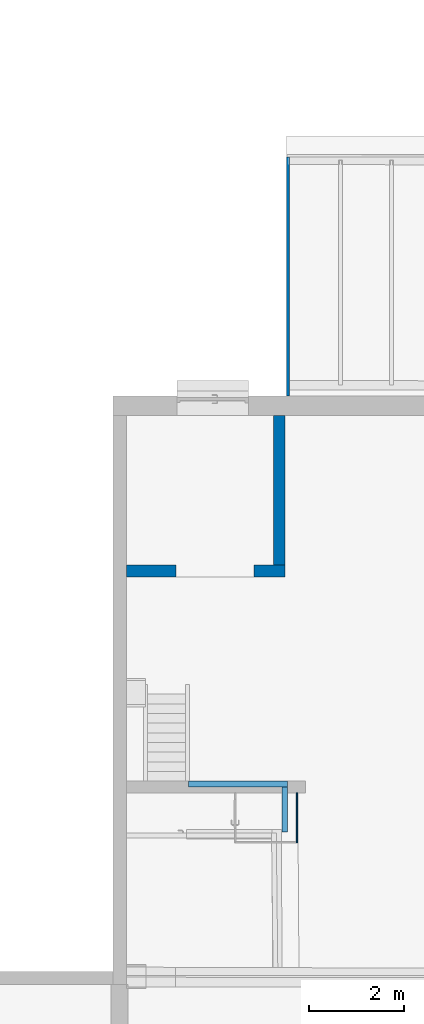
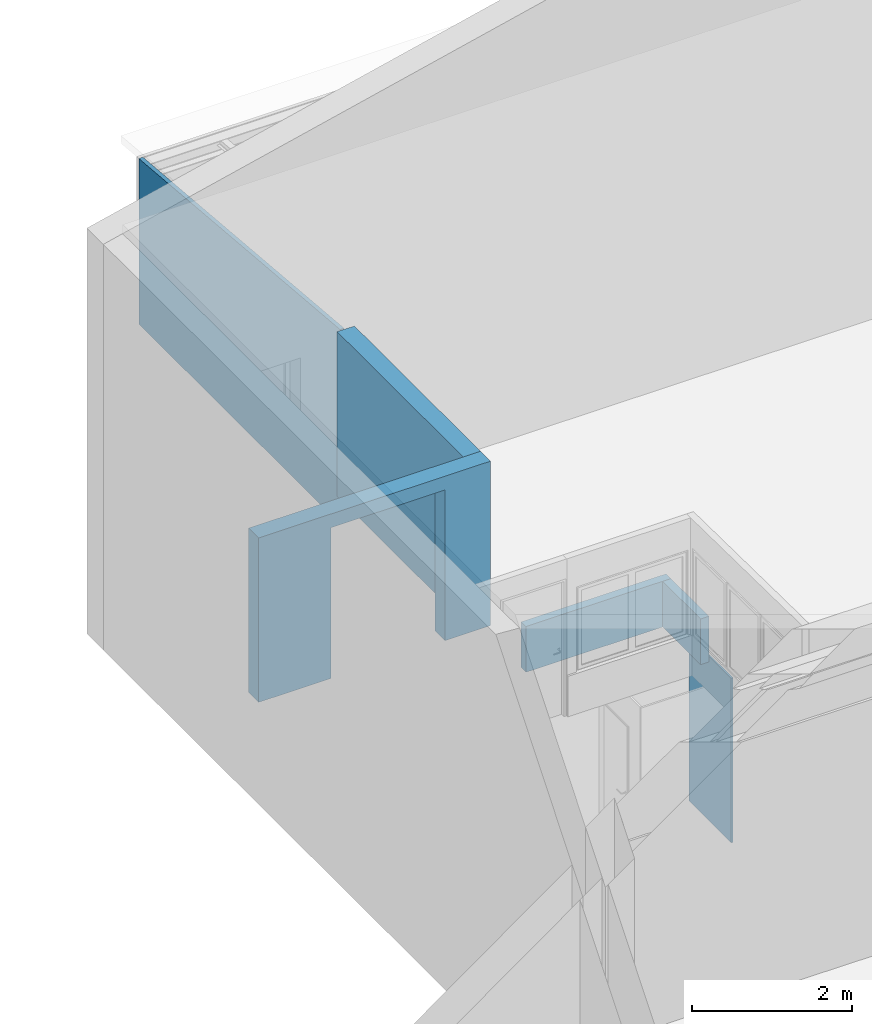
# One storey, part 171 of 301: 6 walls, 1 opening.
"""IFC2X3 building model written with IfcOpenShell, lengths in millimetres."""

from ifc_helpers import new_model, entity, si_unit, converted_unit, derived_unit, money_unit, direction, frame, origin_with_axes, place, context, subcontext, project, spatial, faceted_brep, material, type_object, element, save


model = new_model("IFC2X3")

# Units and contexts
model_context = context("Model", 3, precision=0.01, world=origin_with_axes(), true_north=direction((0.0, 1.0)))
body_context = subcontext(model_context, "Body", "Model", "MODEL_VIEW")
ifc_project = project(units=[si_unit("LENGTHUNIT", "METRE", prefix="MILLI"), si_unit("AREAUNIT", "SQUARE_METRE"), si_unit("VOLUMEUNIT", "CUBIC_METRE"), converted_unit("PLANEANGLEUNIT", "DEGREE", entity("IfcPlaneAngleMeasure", 0.0174532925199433), si_unit("PLANEANGLEUNIT", "RADIAN"), dimensions=[0, 0, 0, 0, 0, 0, 0]), money_unit("EUR"), converted_unit("TIMEUNIT", "Year", entity("IfcTimeMeasure", 31557600.0), si_unit("TIMEUNIT", "SECOND"), dimensions=[0, 0, 1, 0, 0, 0, 0]), si_unit("MASSUNIT", "GRAM", prefix="KILO"), si_unit("THERMODYNAMICTEMPERATUREUNIT", "DEGREE_CELSIUS"), si_unit("LUMINOUSINTENSITYUNIT", "LUMEN"), si_unit("ENERGYUNIT", "JOULE", prefix="MEGA"), derived_unit("THERMALCONDUCTANCEUNIT", [(si_unit("POWERUNIT", "WATT"), 1), (si_unit("LENGTHUNIT", "METRE"), -1), (si_unit("THERMODYNAMICTEMPERATUREUNIT", "KELVIN"), -1)]), derived_unit("SPECIFICHEATCAPACITYUNIT", [(si_unit("ENERGYUNIT", "JOULE"), 1), (si_unit("MASSUNIT", "GRAM", prefix="KILO"), -1), (si_unit("THERMODYNAMICTEMPERATUREUNIT", "KELVIN"), -1)]), derived_unit("MASSDENSITYUNIT", [(si_unit("MASSUNIT", "GRAM", prefix="KILO"), 1), (si_unit("VOLUMEUNIT", "CUBIC_METRE"), -1)])], contexts=[model_context])

# Site, building, storey
site_placement = place(None, frame((0.0, 0.0, 8650.0), z_axis=(0.0, 0.0, 1.0), x_axis=(1.0, 0.0, 0.0)))
site = spatial("IfcSite", under=ifc_project, at=site_placement, Name="43301:001:0844", CompositionType="ELEMENT")
building_placement = place(site_placement, origin_with_axes())
building = spatial("IfcBuilding", under=site, at=building_placement, Name="Kuressaare Ametikooli tuulikute mehaanikute õppekorpus", CompositionType="ELEMENT")
storey_placement = place(building_placement, origin_with_axes())
storey = spatial("IfcBuildingStorey", under=building, at=storey_placement, Name="1.korrus", CompositionType="ELEMENT", Elevation=0.0)

# Wall
ifc_material = material(Name="GENEERILINE - KONSTRUKTRIOON")
wall_type_1 = type_object("IfcWallType", Name="GENEERILINE - KONSTRUKTRIOON 250", PredefinedType="NOTDEFINED")
wall_1_placement = place(storey_placement, frame((91571.70661080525, 122742.6530807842, -330.0), z_axis=(0.0, 0.0, 1.0), x_axis=(0.0, -1.0, 0.0)))
element("IfcWall", 1, at=wall_1_placement, inside=storey, type_object=wall_type_1, material=ifc_material, Name="SS-XX", context=body_context, shape_type="Brep", body=[
    faceted_brep([(409.9307253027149, -250.0, 2515.0), (3568.375409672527, -250.0, 2515.0), (3568.375409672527, 0.0, 2515.0), (410.0000157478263, 0.0, 2515.0), (409.9307253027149, -250.0, 0.0), (3568.375409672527, -250.0, 0.0), (3568.375409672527, 0.0, 0.0), (410.0000157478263, 0.0, 0.0)], [[[0, 1, 2, 3]], [[4, 5, 1, 0]], [[5, 6, 2, 1]], [[3, 2, 6, 7]], [[4, 0, 3, 7]], [[7, 6, 5, 4]]]),
])

# Wall, opening
wall_2_placement = place(storey_placement, frame((91571.70661080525, 118924.2776711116, -330.0000000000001), z_axis=(0.0, 0.0, 1.0), x_axis=(-1.0, 0.0, 0.0)))
wall_2 = element("IfcWall", 2, at=wall_2_placement, inside=storey, type_object=wall_type_1, material=ifc_material, Name="SS-XX", context=body_context, shape_type="Brep", body=[
    faceted_brep([(656.0106118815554, -250.0, 2304.999999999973), (2306.010611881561, -250.0, 2304.999999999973), (2306.010611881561, -250.0, 0.0), (3352.896037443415, -250.0, 0.0), (3352.896037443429, -250.0, 2515.0), (0.0, -250.0, 2515.0), (0.0, -250.0, 0.0), (656.0106118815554, -250.0, 0.0), (2306.010611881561, 0.0, 2304.999999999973), (656.0106118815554, 0.0, 2304.999999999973), (2306.010611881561, 0.0, 0.0), (3352.897951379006, 0.0, 0.0), (3352.89795137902, 0.0, 2515.0), (0.0, 0.0, 2515.0), (0.0, 0.0, 0.0), (656.0106118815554, 0.0, 0.0)], [[[0, 1, 2, 3, 4, 5, 6, 7]], [[8, 1, 0, 9]], [[10, 2, 1, 8]], [[3, 2, 10, 11]], [[4, 3, 11, 12]], [[4, 12, 13, 5]], [[14, 6, 5, 13]], [[14, 15, 7, 6]], [[9, 0, 7, 15]], [[8, 9, 15, 14, 13, 12, 11, 10]]]),
])
opening_placement = place(wall_2_placement, frame((91571.70661080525, 118924.2776711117, 330.0000000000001), z_axis=(0.0, 0.0, 1.0), x_axis=(-1.0, 0.0, 0.0)))
element("IfcOpeningElement", 3, at=opening_placement, cuts=wall_2, Name="ava", context=body_context, shape_type="Brep", body=[
    faceted_brep([(90915.6959989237, 119424.2776711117, -330.0000000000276), (90915.6959989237, 119424.2776711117, 1974.999999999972), (90915.6959989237, 118674.2776711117, 1974.999999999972), (90915.6959989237, 118674.2776711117, -330.0000000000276), (89265.6959989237, 119424.2776711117, -330.0000000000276), (89265.6959989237, 119424.2776711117, 1974.999999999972), (89265.6959989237, 118674.2776711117, 1974.999999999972), (89265.6959989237, 118674.2776711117, -330.0000000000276)], [[[0, 1, 2, 3]], [[0, 4, 5, 1]], [[1, 5, 6, 2]], [[3, 2, 6, 7]], [[4, 0, 3, 7]], [[5, 4, 7, 6]]]),
])

# Walls
wall_type_2 = type_object("IfcWallType", Name="GENEERILINE - KONSTRUKTRIOON 60", PredefinedType="NOTDEFINED")
wall_3_placement = place(storey_placement, frame((91598.74448396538, 122742.6455869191, -1100.0), z_axis=(0.0, 0.0, 1.0), x_axis=(0.0, 1.0, 0.0)))
element("IfcWall", 4, at=wall_3_placement, inside=storey, type_object=wall_type_2, material=ifc_material, Name="VS-XX", context=body_context, shape_type="Brep", body=[
    faceted_brep([(4959.757568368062, -60.00000000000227, 2510.182089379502), (4881.007526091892, -60.00000000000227, 2510.182089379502), (4881.007526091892, -60.00000000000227, 2520.182089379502), (5039.479352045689, -60.00000000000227, 2520.182089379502), (5039.479352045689, -60.00000000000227, 2532.584630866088), (-0.01662970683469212, -60.00000000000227, 2973.483381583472), (-0.01662970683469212, -60.00000000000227, 0.0), (5039.479352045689, -60.00000000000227, 0.0), (5039.479352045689, -60.00000000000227, 2295.182089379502), (4881.007526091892, -60.00000000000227, 2295.182089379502), (4881.007526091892, -60.00000000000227, 2305.182089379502), (4959.757568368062, -60.00000000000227, 2305.182089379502), (4968.757573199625, -60.00000000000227, 2307.593632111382), (4975.346034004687, -60.00000000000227, 2314.182089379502), (4977.757578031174, -60.00000000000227, 2323.182089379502), (4977.757578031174, -60.00000000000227, 2492.182089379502), (4975.346034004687, -60.00000000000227, 2501.182089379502), (4968.757573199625, -60.00000000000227, 2507.770546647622), (201.2418719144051, -60.00000000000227, 2930.182089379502), (122.4918296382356, -60.00000000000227, 2930.182089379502), (122.4918296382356, -60.00000000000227, 2940.182089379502), (322.4919370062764, -60.00000000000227, 2940.182089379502), (322.4919370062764, -60.00000000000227, 2930.182089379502), (243.7418947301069, -60.00000000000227, 2930.182089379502), (234.7418898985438, -60.00000000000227, 2927.770546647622), (228.1534290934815, -60.00000000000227, 2921.182089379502), (225.7418850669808, -60.00000000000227, 2912.182089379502), (225.7418850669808, -60.00000000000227, 2743.182089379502), (228.1534290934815, -60.00000000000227, 2734.182089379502), (234.7418898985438, -60.00000000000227, 2727.593632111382), (243.7418947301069, -60.00000000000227, 2725.182089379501), (322.4919370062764, -60.00000000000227, 2725.182089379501), (322.4919370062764, -60.00000000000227, 2715.182089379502), (122.4918296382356, -60.00000000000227, 2715.182089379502), (122.4918296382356, -60.00000000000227, 2725.182089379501), (201.2418719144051, -60.00000000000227, 2725.182089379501), (210.2418767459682, -60.00000000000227, 2727.593632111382), (216.8303375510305, -60.00000000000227, 2734.182089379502), (219.241881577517, -60.00000000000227, 2743.182089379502), (219.241881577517, -60.00000000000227, 2912.182089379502), (216.8303375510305, -60.00000000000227, 2921.182089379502), (210.2418767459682, -60.00000000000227, 2927.770546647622), (4881.039236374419, -29.3971042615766, 2510.182089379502), (4959.789194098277, -29.4787038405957, 2510.182089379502), (4881.039236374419, -29.3971042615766, 2520.182089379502), (5039.479352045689, -29.5612776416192, 2520.182089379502), (5039.479352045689, -29.5612776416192, 2305.182089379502), (5039.479352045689, -29.5612776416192, 2295.182089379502), (5039.479352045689, 0.0, 0.0), (5039.479352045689, 0.0, 2532.583148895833), (5039.479352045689, -29.5612776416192, 2510.182089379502), (5039.479352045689, -60.00000000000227, 2510.182089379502), (5039.479352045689, -60.00000000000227, 2305.182089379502), (0.0, 0.0, 2973.480444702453), (0.0, 0.0, 0.0), (4881.039236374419, -29.3971042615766, 2295.182089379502), (4881.039236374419, -29.3971042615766, 2305.182089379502), (4959.789194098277, -29.4787038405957, 2305.182089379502), (4968.789189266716, -29.48802950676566, 2307.593632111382), (4975.377642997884, -29.49485636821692, 2314.182089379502), (4977.789184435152, -29.49735517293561, 2323.182089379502), (4977.789184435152, -29.49735517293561, 2492.182089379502), (4975.377642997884, -29.49485636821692, 2501.182089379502), (4968.789189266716, -29.48802950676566, 2507.770546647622), (122.5235399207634, -29.39710426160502, 2930.182089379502), (201.2734976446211, -29.47870384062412, 2930.182089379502), (122.5235399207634, -29.39710426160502, 2940.182089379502), (322.5234325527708, -29.60434128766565, 2940.182089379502), (322.5234325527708, -29.60434128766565, 2930.182089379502), (243.7734748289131, -29.52274170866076, 2930.182089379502), (234.7734796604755, -29.5134160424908, 2927.770546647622), (228.1850259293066, -29.50658918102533, 2921.182089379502), (225.7734844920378, -29.50409037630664, 2912.182089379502), (225.7734844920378, -29.50409037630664, 2743.182089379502), (228.1850259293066, -29.50658918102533, 2734.182089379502), (234.7734796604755, -29.5134160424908, 2727.593632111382), (243.7734748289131, -29.52274170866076, 2725.182089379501), (322.5234325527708, -29.60434128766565, 2725.182089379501), (322.5234325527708, -29.60434128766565, 2715.182089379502), (122.5235399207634, -29.39710426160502, 2715.182089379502), (122.5235399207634, -29.39710426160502, 2725.182089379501), (201.2734976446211, -29.47870384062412, 2725.182089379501), (210.2734928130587, -29.48802950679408, 2727.593632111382), (216.8619465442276, -29.49485636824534, 2734.182089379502), (219.2734879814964, -29.49735517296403, 2743.182089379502), (219.2734879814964, -29.49735517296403, 2912.182089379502), (216.8619465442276, -29.49485636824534, 2921.182089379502), (210.2734928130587, -29.48802950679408, 2927.770546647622), (5002.289171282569, -29.52274170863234, 2510.182089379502), (5002.289171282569, -29.52274170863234, 2305.182089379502), (4993.289176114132, -29.51341604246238, 2307.593632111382), (4986.700722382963, -29.50658918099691, 2314.182089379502), (4984.289180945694, -29.50409037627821, 2323.182089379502), (4984.289180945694, -29.50409037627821, 2492.182089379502), (4986.700722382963, -29.50658918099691, 2501.182089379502), (4993.289176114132, -29.51341604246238, 2507.770546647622), (5002.257591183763, -60.00000000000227, 2510.182089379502), (4993.257586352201, -60.00000000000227, 2307.593632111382), (5002.257591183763, -60.00000000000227, 2305.182089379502), (4993.257586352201, -60.00000000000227, 2507.770546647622), (4986.669125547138, -60.00000000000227, 2501.182089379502), (4984.257581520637, -60.00000000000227, 2492.182089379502), (4984.257581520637, -60.00000000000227, 2323.182089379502), (4986.669125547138, -60.00000000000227, 2314.182089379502)], [[[0, 1, 2, 3, 4, 5, 6, 7, 8, 9, 10, 11, 12, 13, 14, 15, 16, 17], [18, 19, 20, 21, 22, 23, 24, 25, 26, 27, 28, 29, 30, 31, 32, 33, 34, 35, 36, 37, 38, 39, 40, 41]], [[42, 1, 0, 43]], [[44, 2, 1, 42]], [[44, 45, 3, 2]], [[46, 47, 8, 7, 48, 49, 4, 3, 45, 50, 51, 52]], [[4, 49, 53, 5]], [[54, 6, 5, 53]], [[54, 48, 7, 6]], [[55, 9, 8, 47]], [[56, 10, 9, 55]], [[57, 11, 10, 56]], [[58, 12, 11, 57]], [[59, 13, 12, 58]], [[60, 14, 13, 59]], [[61, 15, 14, 60]], [[62, 16, 15, 61]], [[63, 17, 16, 62]], [[43, 0, 17, 63]], [[64, 19, 18, 65]], [[66, 20, 19, 64]], [[67, 21, 20, 66]], [[68, 22, 21, 67]], [[69, 23, 22, 68]], [[70, 24, 23, 69]], [[71, 25, 24, 70]], [[72, 26, 25, 71]], [[73, 27, 26, 72]], [[74, 28, 27, 73]], [[75, 29, 28, 74]], [[76, 30, 29, 75]], [[77, 31, 30, 76]], [[78, 32, 31, 77]], [[79, 33, 32, 78]], [[80, 34, 33, 79]], [[81, 35, 34, 80]], [[82, 36, 35, 81]], [[83, 37, 36, 82]], [[84, 38, 37, 83]], [[85, 39, 38, 84]], [[86, 40, 39, 85]], [[87, 41, 40, 86]], [[65, 18, 41, 87]], [[88, 50, 45, 44, 42, 43, 63, 62, 61, 60, 59, 58, 57, 56, 55, 47, 46, 89, 90, 91, 92, 93, 94, 95]], [[49, 48, 54, 53]], [[88, 96, 51, 50]], [[97, 98, 52, 51, 96, 99, 100, 101, 102, 103]], [[89, 46, 52, 98]], [[67, 66, 64, 65, 87, 86, 85, 84, 83, 82, 81, 80, 79, 78, 77, 76, 75, 74, 73, 72, 71, 70, 69, 68]], [[89, 98, 97, 90]], [[90, 97, 103, 91]], [[91, 103, 102, 92]], [[92, 102, 101, 93]], [[93, 101, 100, 94]], [[94, 100, 99, 95]], [[95, 99, 96, 88]]]),
])
wall_type_3 = type_object("IfcWallType", Name="GENEERILINE - KONSTRUKTRIOON 120", PredefinedType="NOTDEFINED")
wall_4_placement = place(storey_placement, frame((89526.46081263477, 114611.9480091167, 2360.0), z_axis=(0.0, 0.0, 1.0), x_axis=(1.0, 0.0, 0.0)))
element("IfcWall", 5, at=wall_4_placement, inside=storey, type_object=wall_type_3, material=ifc_material, Name="SS-XX", context=body_context, shape_type="Brep", body=[
    faceted_brep([(0.0, -120.0000000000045, 699.9999999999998), (2096.523380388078, -120.0000000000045, 699.9999999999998), (2096.523380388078, 0.0, 699.9999999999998), (0.0, 0.0, 699.9999999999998), (0.0, -120.0000000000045, 0.0), (2096.523380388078, -120.0000000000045, 0.0), (2096.523380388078, 0.0, 0.0), (0.0, 0.0, 0.0)], [[[0, 1, 2, 3]], [[4, 5, 1, 0]], [[2, 1, 5, 6]], [[3, 2, 6, 7]], [[4, 0, 3, 7]], [[7, 6, 5, 4]]]),
])
wall_5_placement = place(storey_placement, frame((91622.98419302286, 114491.9480091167, 2360.0), z_axis=(0.0, 0.0, 1.0), x_axis=(0.0, -1.0, 0.0)))
element("IfcWall", 6, at=wall_5_placement, inside=storey, type_object=wall_type_3, material=ifc_material, Name="SS-XX", context=body_context, shape_type="Brep", body=[
    faceted_brep([(0.0, -120.0000000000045, 699.9999999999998), (950.6128438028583, -120.0000000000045, 699.9999999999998), (950.6128438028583, 0.0, 699.9999999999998), (0.0, 0.0, 699.9999999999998), (0.0, -120.0000000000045, 0.0), (950.6128438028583, -120.0000000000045, 0.0), (950.6128438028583, 0.0, 0.0), (0.0, 0.0, 0.0)], [[[0, 1, 2, 3]], [[4, 5, 1, 0]], [[2, 1, 5, 6]], [[3, 2, 6, 7]], [[4, 0, 3, 7]], [[7, 6, 5, 4]]]),
])
wall_type_4 = type_object("IfcWallType", Name="GENEERILINE - KONSTRUKTRIOON 25", PredefinedType="NOTDEFINED")
wall_6_placement = place(storey_placement, frame((91835.70812907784, 114611.9480091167, -330.0), z_axis=(0.0, 0.0, 1.0), x_axis=(0.0, -1.0, 0.0)))
element("IfcWall", 7, at=wall_6_placement, inside=storey, type_object=wall_type_4, material=ifc_material, Name="SS-XX", context=body_context, shape_type="Brep", body=[
    faceted_brep([(1303.575511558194, -25.00000000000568, 2515.0), (1303.575511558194, 0.0, 2515.0), (250.0, 0.0, 2515.0), (250.0, -25.00000000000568, 2515.0), (1303.575511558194, -25.00000000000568, 0.0), (1303.575511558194, 0.0, 0.0), (250.0, 0.0, 0.0), (250.0, -25.00000000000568, 0.0)], [[[0, 1, 2, 3]], [[1, 0, 4, 5]], [[1, 5, 6, 2]], [[7, 3, 2, 6]], [[4, 0, 3, 7]], [[5, 4, 7, 6]]]),
])

save(model, "model.ifc")
